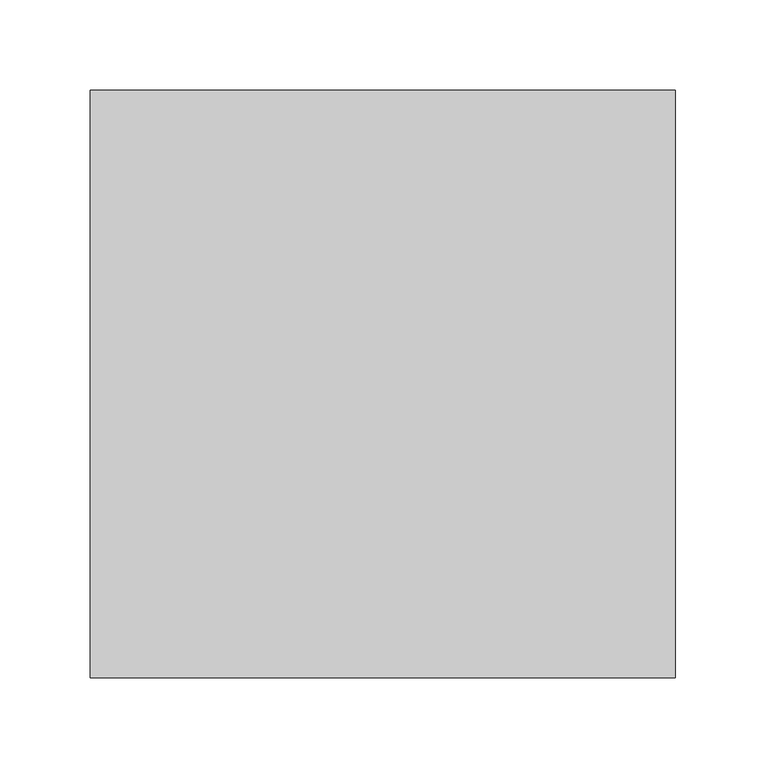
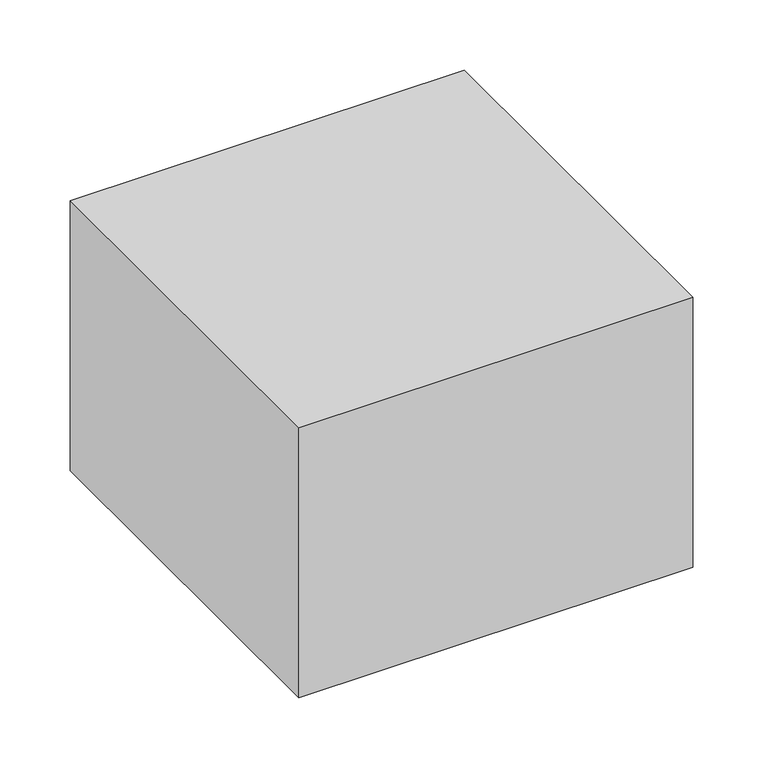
"""IFC4 building model written with IfcOpenShell, lengths in millimetres: column geometry, Column Encasement8 : Column Encasement."""

from ifc_helpers import new_model, si_unit, frame, origin, place, context, project, spatial, polyline, outline, extrude, source, transform, mapped, element, save


def column_83368853(model_context):
    return source(origin(), model_context, "Body", "SweptSolid", [
        extrude(outline(polyline([(-29254.1090062, 3144.2368568), (-29254.1090062, 3469.8896388), (-28929.7652152, 3469.8896388), (-28929.7652152, 3144.2368568), (-29254.1090062, 3144.2368568)])), frame((0.0, 0.0, 7.0), z_axis=(0.0, 0.0, 1.0), x_axis=(1.0, 0.0, 0.0)), (0.0, 0.0, 1.0), 235.0),
    ])


if __name__ == "__main__":
    model = new_model("IFC4")
    model_context = context("Model", 3, world=origin())
    ifc_project = project(units=[si_unit("LENGTHUNIT", "METRE", prefix="MILLI")], contexts=[model_context])
    site = spatial("IfcSite", under=ifc_project)
    building = spatial("IfcBuilding", under=site)
    placement = place(None, origin())
    column_shape = column_83368853(model_context)
    element("IfcColumn", 1, ObjectType="Column Encasement8 : Column Encasement", at=placement, inside=building, context=model_context, shape_type="MappedRepresentation", body=[
        mapped(column_shape, transform((0.0, 0.0, 0.0), x_axis=(1.0, 0.0, 0.0), y_axis=(0.0, 1.0, 0.0), z_axis=(0.0, 0.0, 1.0))),
    ])
    save(model, "model.ifc")
